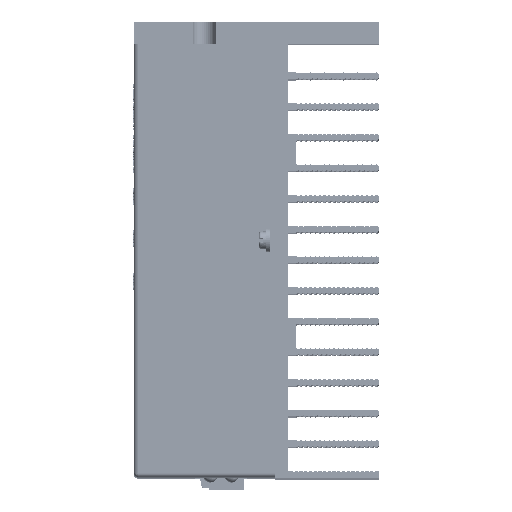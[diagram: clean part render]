
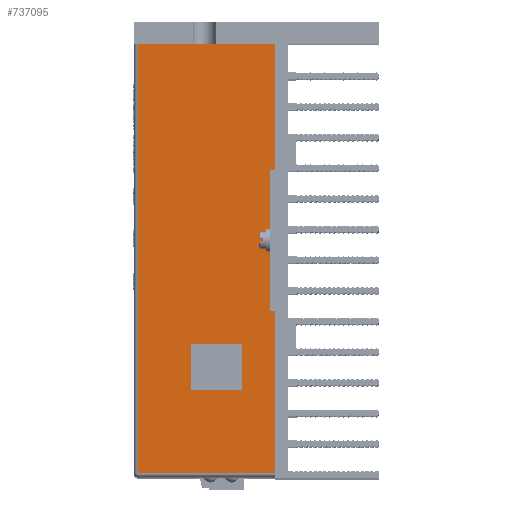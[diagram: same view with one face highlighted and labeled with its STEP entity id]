
A CAD part, top view. The second image highlights one B-rep face of the part: STEP entity #737095.
In plain terms, the highlighted planar face has unit normal (0, 0, 1).
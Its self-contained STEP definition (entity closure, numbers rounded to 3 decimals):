
#4625=DIRECTION('',(0.,1.,0.));
#4626=VECTOR('',#4625,34.35);
#4627=CARTESIAN_POINT('',(4.,-46.55,140.5));
#4628=LINE('',#4627,#4626);
#4641=DIRECTION('',(0.,1.,0.));
#4642=VECTOR('',#4641,26.65);
#4643=CARTESIAN_POINT('',(4.,17.8,140.5));
#4644=LINE('',#4643,#4642);
#256275=DIRECTION('',(1.,0.,0.));
#256276=VECTOR('',#256275,29.);
#256277=CARTESIAN_POINT('',(-25.,44.45,140.5));
#256278=LINE('',#256277,#256276);
#256279=DIRECTION('',(1.,0.,0.));
#256280=VECTOR('',#256279,10.8);
#256281=CARTESIAN_POINT('',(-13.9,-28.85,140.5));
#256282=LINE('',#256281,#256280);
#256283=DIRECTION('',(0.,1.,0.));
#256284=VECTOR('',#256283,9.6);
#256285=CARTESIAN_POINT('',(-3.1,-28.85,140.5));
#256286=LINE('',#256285,#256284);
#256287=DIRECTION('',(-1.,0.,0.));
#256288=VECTOR('',#256287,10.8);
#256289=CARTESIAN_POINT('',(-3.1,-19.25,140.5));
#256290=LINE('',#256289,#256288);
#256291=DIRECTION('',(0.,-1.,0.));
#256292=VECTOR('',#256291,9.6);
#256293=CARTESIAN_POINT('',(-13.9,-19.25,140.5));
#256294=LINE('',#256293,#256292);
#256295=DIRECTION('',(0.,1.,0.));
#256296=VECTOR('',#256295,91.);
#256297=CARTESIAN_POINT('',(-25.,-46.55,140.5));
#256298=LINE('',#256297,#256296);
#256299=DIRECTION('',(-1.,0.,0.));
#256300=VECTOR('',#256299,1.);
#256301=CARTESIAN_POINT('',(4.,17.8,140.5));
#256302=LINE('',#256301,#256300);
#256303=DIRECTION('',(0.,-1.,0.));
#256304=VECTOR('',#256303,30.);
#256305=CARTESIAN_POINT('',(3.,17.8,140.5));
#256306=LINE('',#256305,#256304);
#256307=DIRECTION('',(-1.,0.,0.));
#256308=VECTOR('',#256307,1.);
#256309=CARTESIAN_POINT('',(4.,-12.2,140.5));
#256310=LINE('',#256309,#256308);
#256311=DIRECTION('',(1.,0.,0.));
#256312=VECTOR('',#256311,29.);
#256313=CARTESIAN_POINT('',(-25.,-46.55,140.5));
#256314=LINE('',#256313,#256312);
#279683=CARTESIAN_POINT('',(4.,44.45,140.5));
#279685=VERTEX_POINT('',#279683);
#279791=CARTESIAN_POINT('',(4.,-12.2,140.5));
#279793=VERTEX_POINT('',#279791);
#279797=CARTESIAN_POINT('',(4.,17.8,140.5));
#279798=VERTEX_POINT('',#279797);
#279811=CARTESIAN_POINT('',(3.,17.8,140.5));
#279812=CARTESIAN_POINT('',(3.,-12.2,140.5));
#279813=VERTEX_POINT('',#279811);
#279814=VERTEX_POINT('',#279812);
#282075=CARTESIAN_POINT('',(-13.9,-28.85,140.5));
#282076=CARTESIAN_POINT('',(-3.1,-28.85,140.5));
#282077=VERTEX_POINT('',#282075);
#282078=VERTEX_POINT('',#282076);
#282079=CARTESIAN_POINT('',(-3.1,-19.25,140.5));
#282080=VERTEX_POINT('',#282079);
#282081=CARTESIAN_POINT('',(-13.9,-19.25,140.5));
#282082=VERTEX_POINT('',#282081);
#366186=CARTESIAN_POINT('',(-25.,44.45,140.5));
#366188=VERTEX_POINT('',#366186);
#366189=CARTESIAN_POINT('',(-25.,-46.55,140.5));
#366190=VERTEX_POINT('',#366189);
#366197=CARTESIAN_POINT('',(4.,-46.55,140.5));
#366198=VERTEX_POINT('',#366197);
#737067=CARTESIAN_POINT('',(-26.,-47.55,140.5));
#737068=DIRECTION('',(0.,0.,1.));
#737069=DIRECTION('',(0.,1.,0.));
#737070=AXIS2_PLACEMENT_3D('',#737067,#737068,#737069);
#737071=PLANE('',#737070);
#737072=ORIENTED_EDGE('',*,*,#737059,.T.);
#737073=ORIENTED_EDGE('',*,*,#737048,.T.);
#737074=ORIENTED_EDGE('',*,*,#369329,.F.);
#737076=ORIENTED_EDGE('',*,*,#737075,.T.);
#737077=ORIENTED_EDGE('',*,*,#369488,.T.);
#737079=ORIENTED_EDGE('',*,*,#737078,.F.);
#737080=ORIENTED_EDGE('',*,*,#369321,.F.);
#737082=ORIENTED_EDGE('',*,*,#737081,.F.);
#737083=EDGE_LOOP('',(#737072,#737073,#737074,#737076,#737077,#737079,#737080,
#737082));
#737084=FACE_OUTER_BOUND('',#737083,.F.);
#737086=ORIENTED_EDGE('',*,*,#737085,.T.);
#737088=ORIENTED_EDGE('',*,*,#737087,.T.);
#737090=ORIENTED_EDGE('',*,*,#737089,.T.);
#737092=ORIENTED_EDGE('',*,*,#737091,.T.);
#737093=EDGE_LOOP('',(#737086,#737088,#737090,#737092));
#737094=FACE_BOUND('',#737093,.F.);
#737095=ADVANCED_FACE('',(#737084,#737094),#737071,.T.);
#369321=EDGE_CURVE('',#366198,#279793,#4628,.T.);
#369329=EDGE_CURVE('',#279798,#279685,#4644,.T.);
#369488=EDGE_CURVE('',#279813,#279814,#256306,.T.);
#737048=EDGE_CURVE('',#366188,#279685,#256278,.T.);
#737059=EDGE_CURVE('',#366190,#366188,#256298,.T.);
#737075=EDGE_CURVE('',#279798,#279813,#256302,.T.);
#737078=EDGE_CURVE('',#279793,#279814,#256310,.T.);
#737081=EDGE_CURVE('',#366190,#366198,#256314,.T.);
#737085=EDGE_CURVE('',#282077,#282078,#256282,.T.);
#737087=EDGE_CURVE('',#282078,#282080,#256286,.T.);
#737089=EDGE_CURVE('',#282080,#282082,#256290,.T.);
#737091=EDGE_CURVE('',#282082,#282077,#256294,.T.);
